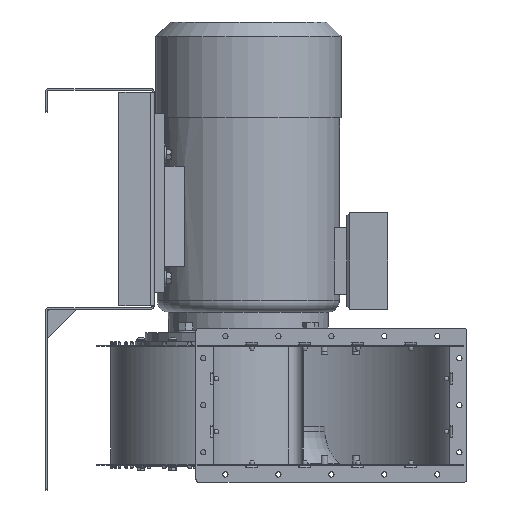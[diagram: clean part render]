
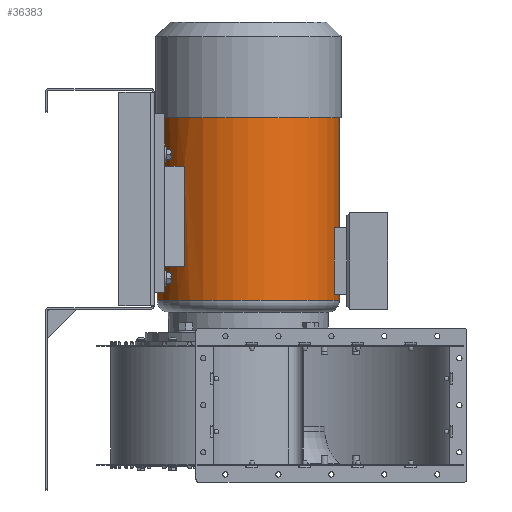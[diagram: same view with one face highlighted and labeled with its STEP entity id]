
A CAD part, left-side view. The second image highlights one B-rep face of the part: STEP entity #36383.
In plain terms, the highlighted cylindrical face has radius 155 mm (diameter 310 mm), a full revolution.
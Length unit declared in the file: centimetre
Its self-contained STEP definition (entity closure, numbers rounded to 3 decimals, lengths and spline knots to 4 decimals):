
#1652=FACE_BOUND('',#6846,.T.);
#1653=FACE_BOUND('',#6847,.T.);
#1654=FACE_BOUND('',#6848,.T.);
#1655=FACE_BOUND('',#6849,.T.);
#4258=FACE_OUTER_BOUND('',#6845,.T.);
#6845=EDGE_LOOP('',(#28447));
#6846=EDGE_LOOP('',(#28448,#28449,#28450,#28451));
#6847=EDGE_LOOP('',(#28452,#28453,#28454,#28455));
#6848=EDGE_LOOP('',(#28456,#28457,#28458,#28459));
#6849=EDGE_LOOP('',(#28460));
#9950=LINE('',#59074,#12448);
#9956=LINE('',#59090,#12454);
#9957=LINE('',#59096,#12455);
#9958=LINE('',#59099,#12456);
#9959=LINE('',#59102,#12457);
#9960=LINE('',#59106,#12458);
#12448=VECTOR('',#46881,17.);
#12454=VECTOR('',#46895,17.);
#12455=VECTOR('',#46900,17.);
#12456=VECTOR('',#46903,17.);
#12457=VECTOR('',#46904,11.3743);
#12458=VECTOR('',#46907,11.3743);
#14054=CIRCLE('',#39465,15.5);
#14055=CIRCLE('',#39467,15.5);
#14056=CIRCLE('',#39468,15.5);
#14057=CIRCLE('',#39469,15.5);
#14058=CIRCLE('',#39470,15.5);
#14059=CIRCLE('',#39471,15.5);
#14060=CIRCLE('',#39472,15.5);
#14061=CIRCLE('',#39473,15.5);
#16697=VERTEX_POINT('',#59070);
#16699=VERTEX_POINT('',#59073);
#16701=VERTEX_POINT('',#59079);
#16704=VERTEX_POINT('',#59087);
#16705=VERTEX_POINT('',#59089);
#16706=VERTEX_POINT('',#59092);
#16707=VERTEX_POINT('',#59093);
#16708=VERTEX_POINT('',#59095);
#16709=VERTEX_POINT('',#59097);
#16710=VERTEX_POINT('',#59100);
#16711=VERTEX_POINT('',#59101);
#16712=VERTEX_POINT('',#59103);
#16713=VERTEX_POINT('',#59105);
#16714=VERTEX_POINT('',#59108);
#20863=EDGE_CURVE('',#16699,#16697,#9950,.T.);
#20866=EDGE_CURVE('',#16697,#16701,#14054,.T.);
#20870=EDGE_CURVE('',#16704,#16704,#14055,.T.);
#20871=EDGE_CURVE('',#16701,#16705,#9956,.T.);
#20872=EDGE_CURVE('',#16705,#16699,#14056,.T.);
#20873=EDGE_CURVE('',#16706,#16707,#14057,.T.);
#20874=EDGE_CURVE('',#16707,#16708,#9957,.T.);
#20875=EDGE_CURVE('',#16708,#16709,#14058,.T.);
#20876=EDGE_CURVE('',#16709,#16706,#9958,.T.);
#20877=EDGE_CURVE('',#16710,#16711,#9959,.T.);
#20878=EDGE_CURVE('',#16711,#16712,#14059,.T.);
#20879=EDGE_CURVE('',#16712,#16713,#9960,.T.);
#20880=EDGE_CURVE('',#16713,#16710,#14060,.T.);
#20881=EDGE_CURVE('',#16714,#16714,#14061,.T.);
#28447=ORIENTED_EDGE('',*,*,#20870,.F.);
#28448=ORIENTED_EDGE('',*,*,#20866,.T.);
#28449=ORIENTED_EDGE('',*,*,#20871,.T.);
#28450=ORIENTED_EDGE('',*,*,#20872,.T.);
#28451=ORIENTED_EDGE('',*,*,#20863,.T.);
#28452=ORIENTED_EDGE('',*,*,#20873,.T.);
#28453=ORIENTED_EDGE('',*,*,#20874,.T.);
#28454=ORIENTED_EDGE('',*,*,#20875,.T.);
#28455=ORIENTED_EDGE('',*,*,#20876,.T.);
#28456=ORIENTED_EDGE('',*,*,#20877,.T.);
#28457=ORIENTED_EDGE('',*,*,#20878,.T.);
#28458=ORIENTED_EDGE('',*,*,#20879,.T.);
#28459=ORIENTED_EDGE('',*,*,#20880,.T.);
#28460=ORIENTED_EDGE('',*,*,#20881,.T.);
#32903=CYLINDRICAL_SURFACE('',#39466,15.5);
#36383=ADVANCED_FACE('',(#4258,#1652,#1653,#1654,#1655),#32903,.T.);
#39465=AXIS2_PLACEMENT_3D('',#59080,#46886,#46887);
#39466=AXIS2_PLACEMENT_3D('',#59086,#46891,#46892);
#39467=AXIS2_PLACEMENT_3D('',#59088,#46893,#46894);
#39468=AXIS2_PLACEMENT_3D('',#59091,#46896,#46897);
#39469=AXIS2_PLACEMENT_3D('',#59094,#46898,#46899);
#39470=AXIS2_PLACEMENT_3D('',#59098,#46901,#46902);
#39471=AXIS2_PLACEMENT_3D('',#59104,#46905,#46906);
#39472=AXIS2_PLACEMENT_3D('',#59107,#46908,#46909);
#39473=AXIS2_PLACEMENT_3D('',#59109,#46910,#46911);
#46881=DIRECTION('',(0.,0.,1.));
#46886=DIRECTION('center_axis',(0.,0.,
1.));
#46887=DIRECTION('ref_axis',(1.,0.,0.));
#46891=DIRECTION('center_axis',(0.,0.,
1.));
#46892=DIRECTION('ref_axis',(1.,0.,0.));
#46893=DIRECTION('center_axis',(0.,0.,
-1.));
#46894=DIRECTION('ref_axis',(1.,0.,0.));
#46895=DIRECTION('',(0.,0.,-1.));
#46896=DIRECTION('center_axis',(0.,0.,
-1.));
#46897=DIRECTION('ref_axis',(1.,0.,0.));
#46898=DIRECTION('center_axis',(0.,0.,
1.));
#46899=DIRECTION('ref_axis',(1.,0.,0.));
#46900=DIRECTION('',(0.,0.,-1.));
#46901=DIRECTION('center_axis',(0.,0.,
-1.));
#46902=DIRECTION('ref_axis',(1.,0.,0.));
#46903=DIRECTION('',(0.,0.,1.));
#46904=DIRECTION('',(0.,0.,-1.));
#46905=DIRECTION('center_axis',(0.,0.,
-1.));
#46906=DIRECTION('ref_axis',(1.,0.,0.));
#46907=DIRECTION('',(0.,0.,1.));
#46908=DIRECTION('center_axis',(0.,0.,
1.));
#46909=DIRECTION('ref_axis',(1.,0.,0.));
#46910=DIRECTION('center_axis',(0.,0.,
-1.));
#46911=DIRECTION('ref_axis',(1.,0.,0.));
#59070=CARTESIAN_POINT('',(11.0296,10.8903,30.6));
#59073=CARTESIAN_POINT('',(11.0296,10.8903,13.6));
#59074=CARTESIAN_POINT('',(11.0296,10.8903,2.3));
#59079=CARTESIAN_POINT('',(6.2137,14.2,30.6));
#59080=CARTESIAN_POINT('Origin',(0.,0.,
30.6));
#59086=CARTESIAN_POINT('Origin',(0.,0.,
2.3));
#59087=CARTESIAN_POINT('',(-15.5,0.,7.7963));
#59088=CARTESIAN_POINT('Origin',(0.,0.,
7.7963));
#59089=CARTESIAN_POINT('',(6.2137,14.2,13.6));
#59090=CARTESIAN_POINT('',(6.2137,14.2,2.3));
#59091=CARTESIAN_POINT('Origin',(0.,0.,
13.6));
#59092=CARTESIAN_POINT('',(-6.2137,14.2,30.6));
#59093=CARTESIAN_POINT('',(-11.0296,10.8903,30.6));
#59094=CARTESIAN_POINT('Origin',(0.,0.,
30.6));
#59095=CARTESIAN_POINT('',(-11.0296,10.8903,13.6));
#59096=CARTESIAN_POINT('',(-11.0296,10.8903,2.3));
#59097=CARTESIAN_POINT('',(-6.2137,14.2,13.6));
#59098=CARTESIAN_POINT('Origin',(0.,0.,
13.6));
#59099=CARTESIAN_POINT('',(-6.2137,14.2,2.3));
#59100=CARTESIAN_POINT('',(5.2197,-14.5947,20.1871));
#59101=CARTESIAN_POINT('',(5.2197,-14.5947,8.8129));
#59102=CARTESIAN_POINT('',(5.2197,-14.5947,2.3));
#59103=CARTESIAN_POINT('',(-5.2197,-14.5947,8.8129));
#59104=CARTESIAN_POINT('Origin',(0.,0.,
8.8129));
#59105=CARTESIAN_POINT('',(-5.2197,-14.5947,20.1871));
#59106=CARTESIAN_POINT('',(-5.2197,-14.5947,2.3));
#59107=CARTESIAN_POINT('Origin',(0.,0.,
20.1871));
#59108=CARTESIAN_POINT('',(-15.5,0.,38.8));
#59109=CARTESIAN_POINT('Origin',(0.,0.,
38.8));
